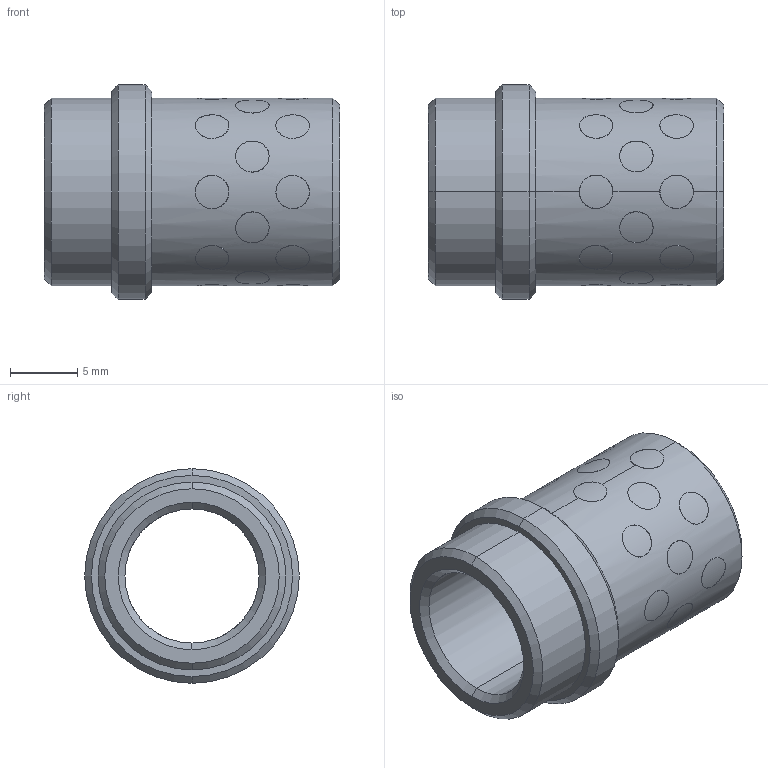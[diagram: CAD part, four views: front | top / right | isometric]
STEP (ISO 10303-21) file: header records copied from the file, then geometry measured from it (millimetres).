
FILE_DESCRIPTION((''),'2;1');
FILE_NAME('G31210017','2018-01-25T',('MANU'),(''),'PRO/ENGINEER BY PARAMETRIC TECHNOLOGY CORPORATION, 2012130','PRO/ENGINEER BY PARAMETRIC TECHNOLOGY CORPORATION, 2012130','');
FILE_SCHEMA(('CONFIG_CONTROL_DESIGN'));
Length unit declared in the file: millimetre
Products named in the file (1): G31210017
Bounding box: 22 x 16 x 16 mm (x, y, z)
Volume: 1766.1 mm3; surface area: 2605.8 mm2
Topology: 25 solids, 25 shells, 168 faces, 360 edges, 236 vertices
Faces by surface type: cylinder 152, cone 12, plane 4
Entity records: 6934 total; most frequent: CARTESIAN_POINT 3568, ORIENTED_EDGE 720, DIRECTION 516, EDGE_CURVE 360, VERTEX_POINT 236, EDGE_LOOP 212, B_SPLINE_CURVE_WITH_KNOTS 208, AXIS2_PLACEMENT_3D 196
